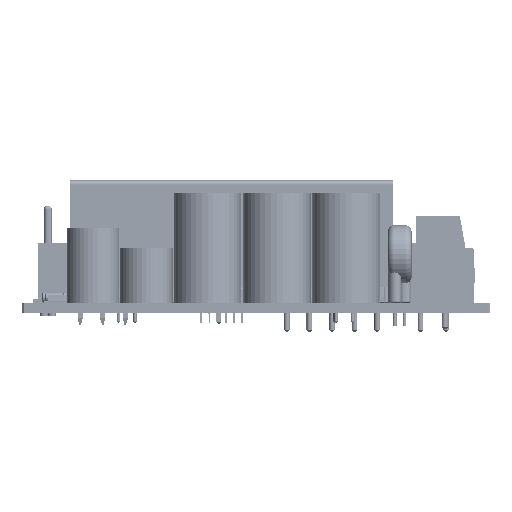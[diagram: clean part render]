
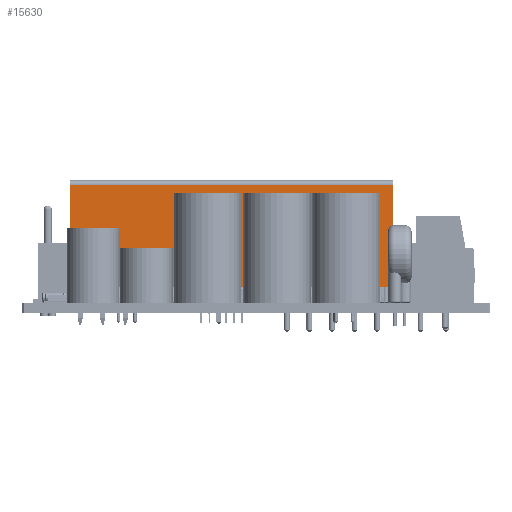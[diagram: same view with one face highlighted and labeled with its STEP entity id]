
A CAD part, left-side view. The second image highlights one B-rep face of the part: STEP entity #15630.
In plain terms, the highlighted planar face has unit normal (-1, 0, 0) as drawn and (1, 0, 0) by its records, which use the part's own axes.
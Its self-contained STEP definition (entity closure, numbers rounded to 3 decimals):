
#15630=ADVANCED_FACE('',(#33285),#33286,.T.);
#33285=FACE_OUTER_BOUND('',#59559,.T.);
#33286=PLANE('',#59560);
#59559=EDGE_LOOP('',(#94351,#94352,#94353,#94354));
#59560=AXIS2_PLACEMENT_3D('',#94355,#94356,#94357);
#94351=ORIENTED_EDGE('',*,*,#140649,.F.);
#94352=ORIENTED_EDGE('',*,*,#140771,.T.);
#94353=ORIENTED_EDGE('',*,*,#140784,.T.);
#94354=ORIENTED_EDGE('',*,*,#140785,.F.);
#94355=CARTESIAN_POINT('',(43.1,0.0,0.0));
#94356=DIRECTION('',(1.0,0.0,0.0));
#94357=DIRECTION('',(0.0,1.0,-0.0));
#140649=EDGE_CURVE('',#167931,#167933,#167934,.T.);
#140771=EDGE_CURVE('',#167931,#168153,#168155,.T.);
#140784=EDGE_CURVE('',#168153,#168177,#168178,.T.);
#140785=EDGE_CURVE('',#167933,#168177,#168179,.T.);
#167931=VERTEX_POINT('',#211808);
#167933=VERTEX_POINT('',#211811);
#167934=LINE('',#211812,#211813);
#168153=VERTEX_POINT('',#212092);
#168155=LINE('',#212095,#212096);
#168177=VERTEX_POINT('',#212120);
#168178=LINE('',#212121,#212122);
#168179=LINE('',#212123,#212124);
#211808=CARTESIAN_POINT('',(43.1,0.0,0.0));
#211811=CARTESIAN_POINT('',(43.1,0.0,15.76));
#211812=CARTESIAN_POINT('',(43.1,0.0,0.0));
#211813=VECTOR('',#251352,1.0);
#212092=CARTESIAN_POINT('',(43.1,50.0,0.0));
#212095=CARTESIAN_POINT('',(43.1,0.0,0.0));
#212096=VECTOR('',#251561,1.0);
#212120=CARTESIAN_POINT('',(43.1,50.0,15.76));
#212121=CARTESIAN_POINT('',(43.1,50.0,0.0));
#212122=VECTOR('',#251588,1.0);
#212123=CARTESIAN_POINT('',(43.1,0.0,15.76));
#212124=VECTOR('',#251589,1.0);
#251352=DIRECTION('',(0.0,0.0,1.0));
#251561=DIRECTION('',(0.0,1.0,0.0));
#251588=DIRECTION('',(0.0,0.0,1.0));
#251589=DIRECTION('',(0.0,1.0,0.0));
